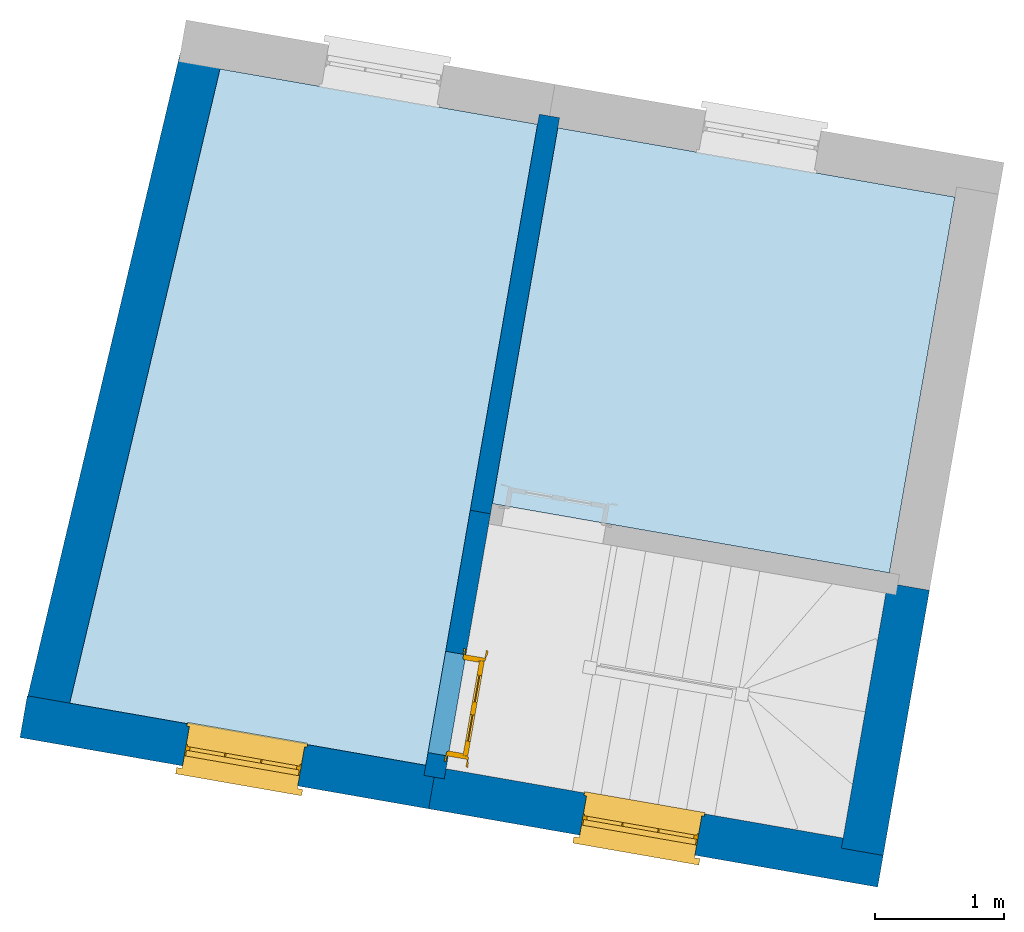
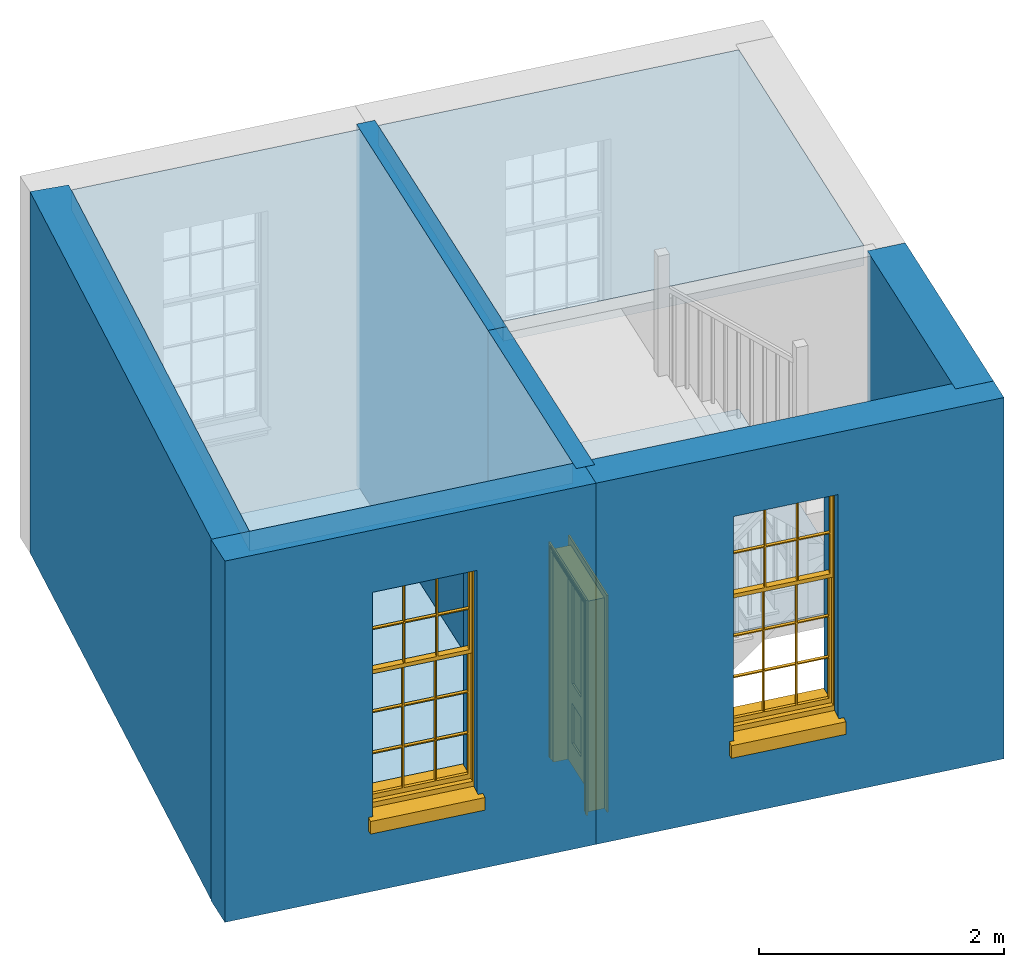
# One storey, part 1 of 2: 6 walls, 4 slabs, 2 windows, 1 door, 3 openings.
"""IFC4 building model written with IfcOpenShell, lengths in metres."""

import ifcopenshell
import ifcopenshell.guid

model = None  # the IFC model being written
_history = None  # IfcOwnerHistory: only IFC2X3 demands one
_inside = {}  # id of a spatial element -> (the spatial element, [elements in it])
_under = {}  # id of a project, library or spatial element -> (it, [spatial elements below it])
_declared = {}  # id of a project -> (the project, [libraries it declares])
_typed = {}  # id of a type object -> (the type object, [elements of that type])
_made_of = {}  # id of a material, layer set ... -> (it, [elements and type objects made of it])


def new_model(schema):
    """Start an empty IFC model of exactly this schema.

    Asked for "IFC4X3", IfcOpenShell would pick the latest addendum, in which some entities
    have other attributes; the version numbers below select the first issue.
    IFC2X3 requires an IfcOwnerHistory on every rooted entity: one is made here for all.
    """
    global model, _history
    if schema == "IFC4X3":
        model = ifcopenshell.file(schema_version=(4, 3, 0, 0))
    else:
        model = ifcopenshell.file(schema=schema)
    _inside.clear()
    _under.clear()
    _declared.clear()
    _typed.clear()
    _made_of.clear()
    _history = None
    if model.schema == "IFC2X3":
        org = make("IfcOrganization", Name="unknown")
        user = make(
            "IfcPersonAndOrganization",
            ThePerson=make("IfcPerson", FamilyName="unknown"),
            TheOrganization=org,
        )
        app = make(
            "IfcApplication",
            ApplicationDeveloper=org,
            Version="unknown",
            ApplicationFullName="unknown",
            ApplicationIdentifier="unknown",
        )
        _history = make(
            "IfcOwnerHistory",
            OwningUser=user,
            OwningApplication=app,
            ChangeAction="ADDED",
            CreationDate=0,
        )
    return model


def make(cls, **values):
    """One entity of the class cls with the attributes given. An attribute that is None is left unset."""
    return model.create_entity(
        cls, **{name: value for name, value in values.items() if value is not None}
    )


def rooted(cls, **values):
    """An entity with a GlobalId (a new one), such as an element, a storey or a relation."""
    return make(cls, GlobalId=ifcopenshell.guid.new(), OwnerHistory=_history, **values)


def si_unit(unit_type, name, prefix=None):
    """IfcSIUnit, for example si_unit("LENGTHUNIT", "METRE", prefix="MILLI")."""
    return make("IfcSIUnit", UnitType=unit_type, Prefix=prefix, Name=name)


def assignment(units):
    """IfcUnitAssignment: the units of a project."""
    return None if units is None else make("IfcUnitAssignment", Units=units)


def point(xyz):
    """IfcCartesianPoint."""
    return None if xyz is None else make("IfcCartesianPoint", Coordinates=xyz)


def direction(xyz):
    """IfcDirection."""
    return None if xyz is None else make("IfcDirection", DirectionRatios=xyz)


def frame(location, z_axis=None, x_axis=None):
    """IfcAxis2Placement3D, a coordinate frame: its origin and axes. An axis left out is left unset."""
    return make(
        "IfcAxis2Placement3D",
        Location=point(location),
        Axis=direction(z_axis),
        RefDirection=direction(x_axis),
    )


def origin():
    """The frame at (0, 0, 0) with its axes left unset."""
    return frame((0.0, 0.0, 0.0))


def origin_with_axes():
    """The frame at (0, 0, 0) with the z axis (0, 0, 1) and the x axis (1, 0, 0) written out."""
    return frame((0.0, 0.0, 0.0), z_axis=(0.0, 0.0, 1.0), x_axis=(1.0, 0.0, 0.0))


def place(relative_to, where):
    """IfcLocalPlacement: puts the frame where relative to a parent placement (None: the world)."""
    return make(
        "IfcLocalPlacement", PlacementRelTo=relative_to, RelativePlacement=where
    )


def context(
    kind, dimensions, precision=None, world=None, true_north=None, identifier=None
):
    """IfcGeometricRepresentationContext, for example the 3D "Model" context."""
    return make(
        "IfcGeometricRepresentationContext",
        ContextIdentifier=identifier,
        ContextType=kind,
        CoordinateSpaceDimension=dimensions,
        Precision=precision,
        WorldCoordinateSystem=world,
        TrueNorth=true_north,
    )


def subcontext(parent, identifier, kind, view, scale=None):
    """IfcGeometricRepresentationSubContext, for example "Body" below "Model"."""
    return make(
        "IfcGeometricRepresentationSubContext",
        ContextIdentifier=identifier,
        ContextType=kind,
        ParentContext=parent,
        TargetScale=scale,
        TargetView=view,
    )


def project(units=None, contexts=None):
    """IfcProject with its units and contexts."""
    return rooted(
        "IfcProject",
        Name="project",
        RepresentationContexts=contexts,
        UnitsInContext=assignment(units),
    )


def spatial(cls, under=None, at=None, **own):
    """A site, building, storey or space (cls), placed at a placement, below another one or the project."""
    s = rooted(cls, ObjectPlacement=at, **own)
    if under is not None:
        _under.setdefault(under.id(), (under, []))[1].append(s)
    return s


def polyline(points):
    """IfcPolyline through the points."""
    return make("IfcPolyline", Points=[point(p) for p in points])


def outline(outer, holes=None, kind="AREA"):
    """IfcArbitraryClosedProfileDef: a profile drawn as a closed curve; with holes, ...WithVoids."""
    if holes is None:
        return make("IfcArbitraryClosedProfileDef", ProfileType=kind, OuterCurve=outer)
    return make(
        "IfcArbitraryProfileDefWithVoids",
        ProfileType=kind,
        OuterCurve=outer,
        InnerCurves=holes,
    )


def extrude(swept, where, along, depth):
    """IfcExtrudedAreaSolid: the profile swept, set in the frame where, extruded along a direction by depth."""
    return make(
        "IfcExtrudedAreaSolid",
        SweptArea=swept,
        Position=where,
        ExtrudedDirection=direction(along),
        Depth=depth,
    )


def faces_of(points, faces, orient=None, outer=None):
    """IfcFace entities. A face is a list of loops; a loop is a list of indices into points, from 0.

    orient and outer hold one flag for each loop. By default every Orientation is true, the
    first loop of a face is its IfcFaceOuterBound and the others are IfcFaceBound.
    """
    made = []
    for i, loops in enumerate(faces):
        bounds = []
        for j, loop in enumerate(loops):
            is_outer = j == 0 if outer is None else outer[i][j]
            bounds.append(
                make(
                    "IfcFaceOuterBound" if is_outer else "IfcFaceBound",
                    Bound=make("IfcPolyLoop", Polygon=[points[k] for k in loop]),
                    Orientation=True if orient is None else orient[i][j],
                )
            )
        made.append(make("IfcFace", Bounds=bounds))
    return made


def faceted_brep(points, faces, orient=None, outer=None, voids=None):
    """IfcFacetedBrep: a solid bounded by flat faces; with voids (closed shells), ...WithVoids."""
    shared = [point(p) for p in points]
    hull = make("IfcClosedShell", CfsFaces=faces_of(shared, faces, orient, outer))
    if voids is None:
        return make("IfcFacetedBrep", Outer=hull)
    return make(
        "IfcFacetedBrepWithVoids",
        Outer=hull,
        Voids=[
            make(cls, CfsFaces=faces_of(shared, fs, o, b)) for cls, fs, o, b in voids
        ],
    )


def shape(context_of_items, identifier, shape_type, items):
    """IfcShapeRepresentation: the items that make up one representation, for example the "Body"."""
    return make(
        "IfcShapeRepresentation",
        ContextOfItems=context_of_items,
        RepresentationIdentifier=identifier,
        RepresentationType=shape_type,
        Items=items,
    )


def source(mapping_origin, context_of_items, identifier, shape_type, items):
    """IfcRepresentationMap: a shape defined once, which mapped items show again and again."""
    return make(
        "IfcRepresentationMap",
        MappingOrigin=mapping_origin,
        MappedRepresentation=shape(context_of_items, identifier, shape_type, items),
    )


def transform(
    local_origin,
    x_axis=None,
    y_axis=None,
    z_axis=None,
    scale=None,
    scale2=None,
    scale3=None,
    uniform=True,
):
    """IfcCartesianTransformationOperator3D, or its non-uniform kind. x_axis, y_axis, z_axis: its Axis1, 2, 3."""
    if uniform:
        return make(
            "IfcCartesianTransformationOperator3D",
            Axis1=direction(x_axis),
            Axis2=direction(y_axis),
            LocalOrigin=point(local_origin),
            Scale=scale,
            Axis3=direction(z_axis),
        )
    return make(
        "IfcCartesianTransformationOperator3DnonUniform",
        Axis1=direction(x_axis),
        Axis2=direction(y_axis),
        LocalOrigin=point(local_origin),
        Scale=scale,
        Axis3=direction(z_axis),
        Scale2=scale2,
        Scale3=scale3,
    )


def mapped(mapping_source, mapping_target):
    """IfcMappedItem: shows the shape of a source again, moved by a transform."""
    return make(
        "IfcMappedItem", MappingSource=mapping_source, MappingTarget=mapping_target
    )


def material(Name=None, Category=None):
    """IfcMaterial."""
    return make("IfcMaterial", Name=Name, Category=Category)


def layer(
    of_material, thickness, ventilated=None, Name=None, Category=None, Priority=None
):
    """IfcMaterialLayer: one layer of a wall or slab, of a material (None: an air gap)."""
    return make(
        "IfcMaterialLayer",
        Material=of_material,
        LayerThickness=thickness,
        IsVentilated=ventilated,
        Name=Name,
        Category=Category,
        Priority=Priority,
    )


def layer_set(layers, Name=None):
    """IfcMaterialLayerSet."""
    return make("IfcMaterialLayerSet", MaterialLayers=layers, LayerSetName=Name)


def layer_usage(for_layer_set, set_direction, sense, offset, extent=None):
    """IfcMaterialLayerSetUsage: how a layer set lies in its element."""
    return make(
        "IfcMaterialLayerSetUsage",
        ForLayerSet=for_layer_set,
        LayerSetDirection=set_direction,
        DirectionSense=sense,
        OffsetFromReferenceLine=offset,
        ReferenceExtent=extent,
    )


def made_of(thing, what):
    """Note that an element or type object is made of a material, layer set ...; save() writes the relation."""
    if what is not None:
        _made_of.setdefault(what.id(), (what, []))[1].append(thing)
    return thing


def type_object(cls, material=None, **own):
    """A type object (cls), such as IfcWallType, which elements share."""
    return made_of(rooted(cls, **own), material)


def type_shapes(of_type, sources):
    """Give a type object the sources (RepresentationMaps) that its elements show as mapped items."""
    of_type.RepresentationMaps = sources


def element(
    cls,
    number,
    at=None,
    inside=None,
    cuts=None,
    type_object=None,
    material=None,
    context=None,
    identifier="Body",
    shape_type=None,
    held_by="IfcProductDefinitionShape",
    body=None,
    shapes=None,
    **own,
):
    """One element of the class cls, such as IfcWall. Its Tag is "e" and its number.

    at: its placement. inside: the storey or other place that contains it. cuts: it is an
    opening in that element (IfcRelVoidsElement). A single representation is given by context,
    identifier, shape_type and body (its items); several are given by shapes. held_by: the class
    of the entity that holds the representations. save() writes the other relations.
    """
    e = rooted(cls, Tag="e%d" % number, ObjectPlacement=at, **own)
    if body is not None:
        shapes = [shape(context, identifier, shape_type, body)]
    if shapes is not None:
        e.Representation = make(held_by, Representations=shapes)
    if inside is not None:
        _inside.setdefault(inside.id(), (inside, []))[1].append(e)
    if cuts is not None:
        rooted(
            "IfcRelVoidsElement", RelatingBuildingElement=cuts, RelatedOpeningElement=e
        )
    if type_object is not None:
        _typed.setdefault(type_object.id(), (type_object, []))[1].append(e)
    return made_of(e, material)


def fill(opening, filler):
    """IfcRelFillsElement: the door or window that sits in an opening."""
    return rooted(
        "IfcRelFillsElement",
        RelatingOpeningElement=opening,
        RelatedBuildingElement=filler,
    )


def aggregate(whole, parts):
    """IfcRelAggregates: a whole, such as a stair, and the parts it consists of."""
    return rooted("IfcRelAggregates", RelatingObject=whole, RelatedObjects=parts)


def save(model, path):
    """Write the relations noted so far, then the file.

    IfcRelAggregates (storeys below a building ...), IfcRelContainedInSpatialStructure (elements
    in a storey), IfcRelDefinesByType, IfcRelAssociatesMaterial and IfcRelDeclares: one each for
    every whole, place, type object, material and project.
    """
    for whole, parts in _under.values():
        aggregate(whole, parts)
    for where, things in _inside.values():
        rooted(
            "IfcRelContainedInSpatialStructure",
            RelatedElements=things,
            RelatingStructure=where,
        )
    for kind, things in _typed.values():
        rooted("IfcRelDefinesByType", RelatedObjects=things, RelatingType=kind)
    for what, things in _made_of.values():
        rooted("IfcRelAssociatesMaterial", RelatedObjects=things, RelatingMaterial=what)
    for by, libraries in _declared.values():
        rooted("IfcRelDeclares", RelatingContext=by, RelatedDefinitions=libraries)
    model.write(path)


model = new_model("IFC4")

# Units and contexts
model_context = context("Model", 3, world=origin_with_axes())
body_context = subcontext(model_context, "Body", "Model", "MODEL_VIEW")
ifc_project = project(units=[si_unit("PLANEANGLEUNIT", "RADIAN"), si_unit("MASSUNIT", "GRAM", prefix="KILO"), si_unit("FORCEUNIT", "NEWTON", prefix="KILO"), si_unit("LENGTHUNIT", "METRE"), si_unit("AREAUNIT", "SQUARE_METRE"), si_unit("VOLUMEUNIT", "CUBIC_METRE")], contexts=[model_context, model_context])

# Sites, building, storey
site_1_placement = place(None, origin_with_axes())
site_1 = spatial("IfcSite", under=ifc_project, at=site_1_placement, Name="Tamar")
site_2_placement = place(site_1_placement, origin_with_axes())
site_2 = spatial("IfcSite", under=site_1, at=site_2_placement, Name="Site plot-26", CompositionType="ELEMENT")
building_placement = place(None, origin_with_axes())
building = spatial("IfcBuilding", under=site_2, at=building_placement, Name="Building plot-26", CompositionType="ELEMENT")
storey_placement = place(None, frame((0.0, 0.0, 29.15), z_axis=(0.0, 0.0, 1.0), x_axis=(1.0, 0.0, 0.0)))
storey = spatial("IfcBuildingStorey", under=building, at=storey_placement, Name="plot-26 1", CompositionType="ELEMENT", Elevation=29.15)

# Slabs
slab_1_placement = place(storey_placement, frame((285.788127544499, 276.357410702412, 3.4)))
element("IfcSlab", 1, at=slab_1_placement, inside=storey, Name="My Slab", ObjectType="Slab", PredefinedType="FLOOR", context=body_context, shape_type="SweptSolid", body=[
    extrude(outline(polyline([(0.0, 0.0), (-1.16954028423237, -4.933998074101), (1.60086254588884, -5.41710384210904), (2.47038160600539, -0.430787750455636), (0.0, 0.0)])), origin_with_axes(), (0.0, 0.0, 1.0), 0.2),
])
slab_2_placement = place(storey_placement, frame((285.788127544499, 276.357410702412, 0.0)))
element("IfcSlab", 2, at=slab_2_placement, inside=storey, Name="My Slab", ObjectType="Slab", PredefinedType="FLOOR", context=body_context, shape_type="SweptSolid", body=[
    extrude(outline(polyline([(0.0, 0.0), (-1.16954028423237, -4.933998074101), (1.60086254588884, -5.41710384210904), (2.47038160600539, -0.430787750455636), (0.0, 0.0)])), origin_with_axes(), (0.0, 0.0, 1.0), 0.02),
])
slab_3_placement = place(storey_placement, frame((287.906316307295, 272.975572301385, 3.4)))
element("IfcSlab", 3, at=slab_3_placement, inside=storey, Name="My Slab", ObjectType="Slab", PredefinedType="FLOOR", context=body_context, shape_type="SweptSolid", body=[
    extrude(outline(polyline([(0.0, 0.0), (3.08955553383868, -0.538759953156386), (3.59936978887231, 2.3848045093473), (0.509814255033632, 2.92356446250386), (0.0, 0.0)])), origin_with_axes(), (0.0, 0.0, 1.0), 0.2),
])
slab_4_placement = place(storey_placement, frame((287.906316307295, 272.975572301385, 0.0)))
element("IfcSlab", 4, at=slab_4_placement, inside=storey, Name="My Slab", ObjectType="Slab", PredefinedType="FLOOR", context=body_context, shape_type="SweptSolid", body=[
    extrude(outline(polyline([(0.0, 0.0), (3.08955553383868, -0.538759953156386), (3.59936978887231, 2.3848045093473), (0.509814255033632, 2.92356446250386), (0.0, 0.0)])), origin_with_axes(), (0.0, 0.0, 1.0), 0.02),
])

# Wall, opening, window
ifc_material_1 = material(Name="Masonry")
ifc_layer_1 = layer(ifc_material_1, 0.33, ventilated=False)
ifc_layer_set_1 = layer_set([ifc_layer_1], Name="exterior_0.08_0.25")
ifc_layer_usage_1 = layer_usage(ifc_layer_set_1, "AXIS2", "POSITIVE", -0.25)
wall_type_1 = type_object("IfcWallType", Name="exterior_0.08_0.25", PredefinedType="SOLIDWALL", material=ifc_layer_set_1)
wall_1_placement = place(storey_placement, frame((284.521148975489, 271.359196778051, 0.0), z_axis=(0.0, 0.0, 1.0), x_axis=(0.985133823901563, -0.17178867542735, 0.0)))
wall_1 = element("IfcWall", 5, at=wall_1_placement, inside=storey, type_object=wall_type_1, material=ifc_layer_usage_1, Name="exterior", context=body_context, shape_type="SweptSolid", body=[
    extrude(outline(polyline([(-0.250000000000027, 0.0799999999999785), (-0.24999999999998, -0.250000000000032), (2.97716782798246, -0.250000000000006), (2.97716782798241, 0.0800000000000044), (-0.250000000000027, 0.0799999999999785)])), origin_with_axes(), (0.0, 0.0, 1.0), 3.6),
])
opening_1_placement = place(wall_1_placement, frame((1.03358391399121, 0.0, 0.75)))
opening_1 = element("IfcOpeningElement", 6, at=opening_1_placement, cuts=wall_1, Name="My Opening", ObjectType="Opening", context=body_context, shape_type="SweptSolid", body=[
    extrude(outline(polyline([(0.0, -0.270000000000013), (0.910000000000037, -0.26999999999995), (0.910000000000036, 1.1), (-1.33226762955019e-15, 1.09999999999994), (0.0, -0.270000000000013)])), origin_with_axes(), (0.0, 0.0, 1.0), 2.23),
])
window_type = type_object("IfcWindowType", Name="sash_big_taller", PartitioningType="DOUBLE_PANEL_HORIZONTAL", PredefinedType="NOTDEFINED")
shared_shape_1 = source(origin(), body_context, "Body", "Brep", [
    faceted_brep([(0.033125, 0.145, 1.385209), (0.01, 0.145, 1.385209), (0.033125, 0.145, 1.786042), (0.876875, 0.145, 1.385209), (0.876875, 0.145, 1.786042), (0.9, 0.145, 1.385209), (0.876875, 0.145, 1.796042), (0.876875, 0.145, 2.196875), (0.9, 0.145, 2.22), (0.033125, 0.145, 2.196875), (0.033125, 0.145, 1.796042), (0.01, 0.145, 2.22), (0.876875, 0.115, 1.786042), (0.876875, 0.115, 1.385209), (0.9, 0.115, 1.347084), (0.033125, 0.115, 2.196875), (0.01, 0.115, 2.22), (0.033125, 0.115, 1.796042), (0.01, 0.115, 1.347084), (0.033125, 0.115, 1.385209), (0.033125, 0.115, 1.786042), (0.876875, 0.115, 2.196875), (0.876875, 0.115, 1.796042), (0.9, 0.115, 2.22), (0.033125, 0.145, 1.347084), (0.01, 0.145, 1.347084), (0.033125, 0.145, 0.94625), (0.876875, 0.145, 1.347084), (0.876875, 0.145, 0.94625), (0.9, 0.145, 1.347084), (0.876875, 0.145, 0.52625), (0.876875, 0.145, 0.125417), (0.9, 0.145, 0.077167), (0.033125, 0.145, 0.125417), (0.033125, 0.145, 0.52625), (0.01, 0.145, 0.077167), (-0.0425, 0.0, 0.01), (-0.0425, -0.05, 0.001667), (0.0, 0.0, 0.01), (0.9525, 0.0, 0.01), (0.91, 0.0, 0.01), (0.9525, -0.05, 0.001667), (-0.02, 0.33, 0.077167), (0.0, 0.33, 0.077167), (-0.02, 0.36, 0.077167), (0.0, 0.19, 0.077167), (0.01, 0.19, 0.077167), (0.91, 0.19, 0.077167), (0.91, 0.33, 0.077167), (0.9, 0.19, 0.077167), (0.93, 0.33, 0.077167), (0.93, 0.36, 0.077167), (0.01, 0.175, 1.385209), (0.9, 0.175, 1.385209), (0.876875, 0.175, 0.125417), (0.876875, 0.175, 0.52625), (0.9, 0.175, 0.077167), (0.876875, 0.175, 0.94625), (0.876875, 0.175, 1.347084), (0.033125, 0.175, 0.125417), (0.01, 0.175, 0.077167), (0.033125, 0.175, 0.52625), (0.033125, 0.175, 1.347084), (0.033125, 0.175, 0.94625), (-0.02, 0.33, 0.052167), (-0.02, 0.36, 0.052167), (0.93, 0.36, 0.052167), (0.93, 0.33, 0.052167), (0.91, 0.33, 0.052167), (0.0, 0.33, 0.052167), (0.91, 0.1, 0.026667), (0.0, 0.1, 0.026667), (-0.0425, -0.05, -0.123333), (0.9525, -0.05, -0.123333), (-0.0425, 0.0, -0.123333), (0.9525, 0.0, -0.123333), (0.01, 0.19, 2.22), (0.9, 0.19, 2.22), (0.0, 0.19, 2.23), (0.91, 0.19, 2.23), (0.01, 0.1, 0.077167), (0.9, 0.1, 0.077167), (0.592292, 0.145, 0.125417), (0.592292, 0.175, 0.125417), (0.317708, 0.175, 0.125417), (0.317708, 0.145, 0.125417), (0.592292, 0.145, 0.53625), (0.317708, 0.145, 0.53625), (0.317708, 0.145, 0.52625), (0.592292, 0.145, 0.52625), (0.592292, 0.175, 0.53625), (0.317708, 0.175, 0.53625), (0.592292, 0.115, 1.796042), (0.592292, 0.145, 1.796042), (0.317708, 0.145, 1.796042), (0.317708, 0.115, 1.796042), (0.317708, 0.115, 1.786042), (0.592292, 0.115, 1.786042), (0.317708, 0.145, 1.786042), (0.592292, 0.145, 1.786042), (0.602292, 0.115, 1.786042), (0.592292, 0.115, 1.385209), (0.602292, 0.115, 1.385209), (0.602292, 0.145, 1.385209), (0.592292, 0.145, 1.385209), (0.602292, 0.145, 1.786042), (0.876875, 0.145, 0.53625), (0.876875, 0.175, 0.53625), (0.602292, 0.175, 0.53625), (0.602292, 0.145, 0.53625), (0.317708, 0.175, 0.52625), (0.307708, 0.175, 0.125417), (0.307708, 0.175, 0.52625), (0.602292, 0.175, 0.52625), (0.602292, 0.175, 0.125417), (0.592292, 0.175, 0.52625), (0.307708, 0.175, 0.53625), (0.033125, 0.175, 0.53625), (0.317708, 0.175, 1.347084), (0.317708, 0.175, 0.94625), (0.307708, 0.175, 0.94625), (0.307708, 0.175, 1.347084), (0.602292, 0.175, 1.347084), (0.602292, 0.175, 0.94625), (0.592292, 0.175, 0.94625), (0.592292, 0.175, 1.347084), (0.307708, 0.145, 0.52625), (0.307708, 0.145, 0.125417), (0.307708, 0.145, 0.53625), (0.033125, 0.145, 0.53625), (0.307708, 0.145, 1.347084), (0.307708, 0.145, 0.94625), (0.592292, 0.145, 1.347084), (0.592292, 0.145, 0.94625), (0.317708, 0.145, 0.94625), (0.317708, 0.145, 1.347084), (0.602292, 0.145, 0.94625), (0.602292, 0.145, 1.347084), (0.602292, 0.145, 0.52625), (0.602292, 0.145, 0.125417), (0.307708, 0.115, 1.796042), (0.307708, 0.115, 1.786042), (0.307708, 0.115, 1.385209), (0.317708, 0.115, 1.385209), (0.317708, 0.115, 2.196875), (0.307708, 0.115, 2.196875), (0.602292, 0.115, 2.196875), (0.592292, 0.115, 2.196875), (0.602292, 0.115, 1.796042), (0.602292, 0.145, 1.796042), (0.307708, 0.145, 1.796042), (0.307708, 0.145, 2.196875), (0.317708, 0.145, 2.196875), (0.592292, 0.145, 2.196875), (0.602292, 0.145, 2.196875), (0.307708, 0.145, 1.786042), (0.317708, 0.145, 1.385209), (0.307708, 0.145, 1.385209), (0.876875, 0.175, 0.93625), (0.033125, 0.175, 0.93625), (0.033125, 0.145, 0.93625), (0.876875, 0.145, 0.93625), (0.91, 0.1, 2.23), (0.9, 0.1, 2.22), (0.01, 0.1, 2.22), (0.0, 0.1, 2.23), (0.91, 0.0, 0.0), (0.0, 0.0, 0.0), (0.91, 0.33, 0.0), (0.0, 0.33, 0.0), (0.317708, 0.145, 0.93625), (0.592292, 0.145, 0.93625), (0.317708, 0.175, 0.93625), (0.307708, 0.175, 0.93625), (0.602292, 0.175, 0.93625), (0.592292, 0.175, 0.93625), (0.307708, 0.145, 0.93625), (0.602292, 0.145, 0.93625)], [[[0, 1, 2]], [[3, 4, 5]], [[6, 7, 8]], [[9, 10, 11]], [[12, 13, 14]], [[15, 16, 17]], [[18, 19, 20]], [[21, 22, 23]], [[24, 25, 26]], [[27, 28, 29]], [[30, 31, 32]], [[33, 34, 35]], [[14, 27, 29]], [[25, 24, 18]], [[36, 37, 38]], [[39, 40, 41]], [[42, 43, 44]], [[45, 46, 43]], [[47, 48, 49]], [[50, 51, 48]], [[1, 0, 52]], [[5, 53, 3]], [[54, 55, 56]], [[57, 58, 53]], [[59, 60, 61]], [[62, 63, 52]], [[48, 43, 46, 49]], [[51, 44, 43, 48]], [[64, 42, 44, 65]], [[65, 44, 51, 66]], [[66, 51, 50, 67]], [[65, 66, 68, 69]], [[60, 56, 49, 46]], [[70, 71, 38, 40]], [[37, 41, 40, 38]], [[37, 72, 73, 41]], [[74, 75, 73, 72]], [[8, 11, 76, 77]], [[76, 78, 79, 77]], [[32, 35, 80, 81]], [[81, 80, 71, 70]], [[82, 83, 84, 85]], [[86, 87, 88, 89]], [[86, 90, 91, 87]], [[92, 93, 94, 95]], [[92, 95, 96, 97]], [[96, 98, 99, 97]], [[100, 97, 101, 102]], [[103, 104, 99, 105]], [[97, 99, 104, 101]], [[102, 103, 105, 100]], [[106, 107, 108, 109]], [[110, 84, 111, 112]], [[113, 114, 83, 115]], [[116, 112, 61, 117]], [[90, 115, 110, 91]], [[118, 119, 120, 121]], [[122, 123, 124, 125]], [[113, 108, 107, 55]], [[126, 112, 111, 127]], [[34, 61, 112, 126]], [[89, 115, 83, 82]], [[88, 110, 115, 89]], [[85, 84, 110, 88]], [[128, 116, 117, 129]], [[130, 121, 120, 131]], [[132, 125, 124, 133]], [[134, 119, 118, 135]], [[136, 123, 122, 137]], [[138, 113, 55, 30]], [[139, 114, 113, 138]], [[138, 30, 106, 109]], [[88, 126, 127, 85]], [[138, 89, 82, 139]], [[137, 132, 133, 136]], [[128, 129, 34, 126]], [[135, 130, 131, 134]], [[140, 17, 20, 141]], [[96, 141, 142, 143]], [[144, 145, 140, 95]], [[146, 147, 92, 148]], [[100, 12, 22, 148]], [[149, 6, 4, 105]], [[94, 150, 151, 152]], [[149, 93, 153, 154]], [[99, 98, 94, 93]], [[155, 2, 10, 150]], [[156, 157, 155, 98]], [[141, 155, 157, 142]], [[20, 2, 155, 141]], [[143, 156, 98, 96]], [[140, 150, 10, 17]], [[145, 151, 150, 140]], [[147, 153, 93, 92]], [[95, 94, 152, 144]], [[22, 6, 149, 148]], [[148, 149, 154, 146]], [[100, 105, 4, 12]], [[109, 86, 89, 138]], [[108, 113, 115, 90]], [[91, 110, 112, 116]], [[87, 128, 126, 88]], [[97, 100, 148, 92]], [[141, 96, 95, 140]], [[98, 155, 150, 94]], [[105, 99, 93, 149]], [[143, 101, 104, 156]], [[135, 118, 125, 132]], [[144, 152, 153, 147]], [[127, 111, 59, 33]], [[15, 9, 151, 145]], [[146, 154, 7, 21]], [[31, 54, 114, 139]], [[36, 74, 72, 37]], [[39, 41, 73, 75]], [[18, 14, 101, 143]], [[23, 16, 144, 147]], [[83, 56, 60, 84]], [[52, 53, 125, 118]], [[53, 52, 156, 104]], [[11, 8, 153, 152]], [[14, 18, 135, 132]], [[2, 1, 11, 10]], [[8, 5, 4, 6]], [[57, 53, 56, 158]], [[60, 52, 63, 159]], [[26, 25, 35, 160]], [[32, 29, 28, 161]], [[14, 23, 22, 12]], [[18, 20, 17, 16]], [[19, 0, 2, 20]], [[17, 10, 9, 15]], [[12, 4, 3, 13]], [[21, 7, 6, 22]], [[27, 58, 57, 28]], [[30, 55, 54, 31]], [[33, 59, 61, 34]], [[26, 63, 62, 24]], [[5, 8, 77, 53]], [[76, 11, 1, 52]], [[46, 45, 78, 76]], [[49, 77, 79, 47]], [[70, 162, 163, 81]], [[71, 80, 164, 165]], [[19, 142, 157, 0]], [[102, 13, 3, 103]], [[121, 130, 24, 62]], [[29, 32, 81, 14]], [[80, 35, 25, 18]], [[60, 46, 76, 52]], [[77, 49, 56, 53]], [[23, 14, 81, 163]], [[16, 164, 80, 18]], [[35, 85, 127]], [[127, 33, 35]], [[139, 82, 32]], [[32, 31, 139]], [[32, 82, 85, 35]], [[102, 101, 14]], [[14, 13, 102]], [[18, 143, 142]], [[142, 19, 18]], [[146, 21, 23]], [[23, 147, 146]], [[16, 15, 145]], [[145, 144, 16]], [[11, 152, 151]], [[151, 9, 11]], [[154, 153, 8]], [[8, 7, 154]], [[23, 163, 164, 16]], [[162, 165, 164, 163]], [[52, 118, 121]], [[121, 62, 52]], [[125, 53, 122]], [[58, 122, 53]], [[27, 137, 122, 58]], [[56, 83, 114]], [[114, 54, 56]], [[111, 84, 60]], [[60, 59, 111]], [[137, 27, 14]], [[14, 132, 137]], [[130, 135, 18]], [[18, 24, 130]], [[157, 156, 52]], [[52, 0, 157]], [[103, 3, 53]], [[53, 104, 103]], [[79, 78, 165, 162]], [[78, 45, 71, 165]], [[162, 70, 47, 79]], [[166, 75, 74, 167]], [[68, 66, 67]], [[48, 68, 67, 50]], [[69, 64, 65]], [[42, 64, 69, 43]], [[69, 68, 168, 169]], [[70, 68, 48, 47]], [[166, 168, 68, 70]], [[43, 69, 71, 45]], [[69, 169, 167, 71]], [[168, 166, 167, 169]], [[38, 167, 74, 36]], [[71, 167, 38]], [[39, 75, 166, 40]], [[40, 166, 70]], [[133, 134, 170, 171]], [[133, 124, 119, 134]], [[28, 57, 123, 136]], [[172, 91, 116, 173]], [[174, 108, 90, 175]], [[120, 173, 159, 63]], [[124, 175, 172, 119]], [[174, 123, 57, 158]], [[176, 173, 116, 128]], [[160, 159, 173, 176]], [[171, 175, 90, 86]], [[170, 172, 175, 171]], [[87, 91, 172, 170]], [[131, 120, 63, 26]], [[177, 174, 158, 161]], [[109, 108, 174, 177]], [[177, 161, 28, 136]], [[170, 176, 128, 87]], [[177, 171, 86, 109]], [[131, 26, 160, 176]], [[136, 133, 171, 177]], [[123, 174, 175, 124]], [[119, 172, 173, 120]], [[134, 131, 176, 170]], [[129, 117, 159, 160]], [[161, 158, 107, 106]], [[35, 34, 129]], [[35, 129, 160]], [[32, 106, 30]], [[32, 161, 106]], [[56, 55, 107]], [[56, 107, 158]], [[60, 117, 61]], [[60, 159, 117]]]),
])
type_shapes(window_type, [shared_shape_1])
window_1_placement = place(storey_placement, frame((285.492984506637, 270.91565263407, 0.75), z_axis=(0.0, 0.0, 1.0), x_axis=(0.89647177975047, -0.156327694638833, 0.0)))
window_1 = element("IfcWindow", 7, at=window_1_placement, inside=storey, type_object=window_type, Name="bedroom outside window", OverallHeight=2.23, OverallWidth=0.91, context=body_context, shape_type="MappedRepresentation", body=[
    mapped(shared_shape_1, transform((0.0, 0.0, 0.0), scale=1.0)),
])
fill(opening_1, window_1)

wall_2_placement = place(storey_placement, frame((287.454057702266, 270.847753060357, 0.0), z_axis=(0.0, 0.0, 1.0), x_axis=(0.985133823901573, -0.171788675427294, 0.0)))
wall_2 = element("IfcWall", 8, at=wall_2_placement, inside=storey, type_object=wall_type_1, material=ifc_layer_usage_1, Name="exterior", context=body_context, shape_type="SweptSolid", body=[
    extrude(outline(polyline([(-1.58402044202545e-14, 0.0800000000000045), (1.2166529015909e-14, -0.250000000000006), (3.54617851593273, -0.249999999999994), (3.5461785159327, 0.0800000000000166), (-1.58402044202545e-14, 0.0800000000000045)])), origin_with_axes(), (0.0, 0.0, 1.0), 3.6),
])
opening_2_placement = place(wall_2_placement, frame((1.19308925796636, 0.0, 0.75)))
opening_2 = element("IfcOpeningElement", 9, at=opening_2_placement, cuts=wall_2, Name="My Opening", ObjectType="Opening", context=body_context, shape_type="SweptSolid", body=[
    extrude(outline(polyline([(0.0, -0.269999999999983), (0.909999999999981, -0.269999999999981), (0.910000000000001, 1.09999999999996), (1.95399252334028e-14, 1.09999999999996), (0.0, -0.269999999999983)])), origin_with_axes(), (0.0, 0.0, 1.0), 2.23),
])
window_2_placement = place(storey_placement, frame((288.583027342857, 270.376807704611, 0.75), z_axis=(0.0, 0.0, 1.0), x_axis=(0.896471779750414, -0.156327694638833, 0.0)))
window_2 = element("IfcWindow", 10, at=window_2_placement, inside=storey, type_object=window_type, Name="circulation outside window", OverallHeight=2.23, OverallWidth=0.91, context=body_context, shape_type="MappedRepresentation", body=[
    mapped(shared_shape_1, transform((0.0, 0.0, 0.0), scale=1.0)),
])
fill(opening_2, window_2)

# Walls
ifc_material_2 = material(Name="Masonry")
ifc_layer_2 = layer(ifc_material_2, 0.33, ventilated=False)
ifc_layer_set_2 = layer_set([ifc_layer_2], Name="party_0.08_0.25")
ifc_layer_usage_2 = layer_usage(ifc_layer_set_2, "AXIS2", "POSITIVE", -0.25)
wall_type_2 = type_object("IfcWallType", Name="party_0.08_0.25", PredefinedType="SOLIDWALL", material=ifc_layer_set_2)
wall_3_placement = place(storey_placement, frame((285.727659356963, 276.44916244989, 0.0), z_axis=(0.0, 0.0, 1.0), x_axis=(-0.230645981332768, -0.973037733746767, 0.0)))
element("IfcWall", 11, at=wall_3_placement, inside=storey, type_object=wall_type_2, material=ifc_layer_usage_2, Name="party", context=body_context, shape_type="SweptSolid", body=[
    extrude(outline(polyline([(-1.56466359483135e-14, 0.0800000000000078), (-8.08931999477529e-15, -0.25000000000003), (5.23100543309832, -0.25000000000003), (5.23100543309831, 0.0800000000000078), (-1.56466359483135e-14, 0.0800000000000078)])), origin_with_axes(), (0.0, 0.0, 1.0), 3.6),
])
wall_4_placement = place(storey_placement, frame((290.701234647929, 270.281506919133, 0.0), z_axis=(0.0, 0.0, 1.0), x_axis=(0.171788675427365, 0.985133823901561, 0.0)))
element("IfcWall", 12, at=wall_4_placement, inside=storey, type_object=wall_type_2, material=ifc_layer_usage_2, Name="party", context=body_context, shape_type="SweptSolid", body=[
    extrude(outline(polyline([(-2.15600734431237e-14, 0.0800000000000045), (2.99358185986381e-14, -0.250000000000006), (2.09387961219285, -0.250000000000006), (2.0938796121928, 0.0800000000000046), (-2.15600734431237e-14, 0.0800000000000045)])), origin_with_axes(), (0.0, 0.0, 1.0), 3.6),
])
ifc_material_3 = material(Name="Masonry")
ifc_layer_3 = layer(ifc_material_3, 0.16, ventilated=False)
ifc_layer_set_3 = layer_set([ifc_layer_3], Name="interior_0.08_0.08")
ifc_layer_usage_3 = layer_usage(ifc_layer_set_3, "AXIS2", "POSITIVE", -0.08)
wall_type_3 = type_object("IfcWallType", Name="interior_0.08_0.08", PredefinedType="SOLIDWALL", material=ifc_layer_set_3)
wall_5_placement = place(storey_placement, frame((287.813762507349, 272.910504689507, 0.0), z_axis=(0.0, 0.0, 1.0), x_axis=(0.171788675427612, 0.985133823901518, 0.0)))
element("IfcWall", 13, at=wall_5_placement, inside=storey, type_object=wall_type_3, material=ifc_layer_usage_3, Name="interior", context=body_context, shape_type="SweptSolid", body=[
    extrude(outline(polyline([(1.43578618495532e-14, 0.0800000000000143), (-1.4365828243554e-14, -0.0800000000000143), (3.12768255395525, -0.0800000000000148), (3.12768255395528, 0.0800000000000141), (1.43578618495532e-14, 0.0800000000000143)])), origin_with_axes(), (0.0, 0.0, 1.0), 3.6),
])

# Wall, opening, door
wall_6_placement = place(storey_placement, frame((287.813762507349, 272.910504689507, 0.0), z_axis=(0.0, 0.0, 1.0), x_axis=(-0.171788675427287, -0.985133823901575, 0.0)))
wall_6 = element("IfcWall", 14, at=wall_6_placement, inside=storey, type_object=wall_type_3, material=ifc_layer_usage_3, Name="interior", context=body_context, shape_type="SweptSolid", body=[
    extrude(outline(polyline([(-1.52203103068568e-14, 0.0800000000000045), (1.52105131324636e-14, -0.0800000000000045), (2.09387961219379, -0.0800000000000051), (2.09387961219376, 0.080000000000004), (-1.52203103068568e-14, 0.0800000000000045)])), origin_with_axes(), (0.0, 0.0, 1.0), 3.6),
])
opening_3_placement = place(wall_6_placement, frame((1.11387961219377, 0.0, 0.0199999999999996)))
opening_3 = element("IfcOpeningElement", 15, at=opening_3_placement, cuts=wall_6, Name="My Opening", ObjectType="Opening", context=body_context, shape_type="SweptSolid", body=[
    extrude(outline(polyline([(0.0, -0.0999999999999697), (0.800000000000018, -0.0999999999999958), (0.800000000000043, 1.09999999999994), (2.44249065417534e-14, 1.09999999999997), (0.0, -0.0999999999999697)])), origin_with_axes(), (0.0, 0.0, 1.0), 2.1),
])
door_type = type_object("IfcDoorType", Name="door_inside", OperationType="SINGLE_SWING_LEFT", PredefinedType="NOTDEFINED")
shared_shape_2 = source(origin(), body_context, "Body", "Brep", [
    faceted_brep([(0.773, 0.33, 1.895), (0.66, 0.33, 1.895), (0.66, 0.33, 2.073), (0.773, 0.33, 2.073), (0.773, 0.33, 0.82), (0.66, 0.33, 0.82), (0.45, 0.33, 1.895), (0.45, 0.33, 2.073), (0.773, 0.33, 0.62), (0.66, 0.33, 0.62), (0.66, 0.315, 0.82), (0.66, 0.315, 1.895), (0.45, 0.315, 1.895), (0.35, 0.33, 1.895), (0.35, 0.33, 2.073), (0.773, 0.33, 0.225), (0.66, 0.33, 0.225), (0.45, 0.33, 0.62), (0.45, 0.33, 0.82), (0.45, 0.315, 0.82), (0.35, 0.33, 0.82), (0.14, 0.33, 2.073), (0.14, 0.33, 1.895), (0.773, 0.33, 0.0), (0.66, 0.33, 0.0), (0.66, 0.315, 0.225), (0.66, 0.315, 0.62), (0.45, 0.315, 0.62), (0.35, 0.33, 0.62), (0.35, 0.315, 0.82), (0.35, 0.315, 1.895), (0.14, 0.315, 1.895), (0.027, 0.33, 2.073), (0.027, 0.33, 1.895), (0.773, 0.292, 0.0), (0.66, 0.292, 0.0), (0.45, 0.33, 0.0), (0.45, 0.33, 0.225), (0.45, 0.315, 0.225), (0.35, 0.33, 0.225), (0.14, 0.33, 0.82), (0.14, 0.33, 0.62), (0.14, 0.315, 0.82), (0.027, 0.33, 0.82), (0.773, 0.292, 0.225), (0.66, 0.292, 0.225), (0.45, 0.292, 0.0), (0.35, 0.33, 0.0), (0.35, 0.315, 0.225), (0.35, 0.315, 0.62), (0.14, 0.315, 0.62), (0.027, 0.33, 0.62), (0.773, 0.292, 0.62), (0.66, 0.292, 0.62), (0.45, 0.292, 0.225), (0.35, 0.292, 0.0), (0.14, 0.33, 0.225), (0.14, 0.33, 0.0), (0.14, 0.315, 0.225), (0.027, 0.33, 0.225), (0.773, 0.292, 0.82), (0.66, 0.292, 0.82), (0.66, 0.307, 0.62), (0.66, 0.307, 0.225), (0.45, 0.307, 0.225), (0.35, 0.292, 0.225), (0.14, 0.292, 0.0), (0.027, 0.33, 0.0), (0.773, 0.292, 1.895), (0.66, 0.292, 1.895), (0.45, 0.292, 0.62), (0.45, 0.292, 0.82), (0.45, 0.307, 0.62), (0.35, 0.292, 0.62), (0.14, 0.292, 0.225), (0.027, 0.292, 0.0), (0.773, 0.292, 2.073), (0.66, 0.292, 2.073), (0.66, 0.307, 1.895), (0.66, 0.307, 0.82), (0.45, 0.307, 0.82), (0.35, 0.292, 0.82), (0.35, 0.307, 0.62), (0.35, 0.307, 0.225), (0.14, 0.307, 0.225), (0.027, 0.292, 0.225), (0.45, 0.292, 1.895), (0.45, 0.292, 2.073), (0.45, 0.307, 1.895), (0.35, 0.292, 1.895), (0.14, 0.292, 0.82), (0.14, 0.292, 0.62), (0.14, 0.307, 0.62), (0.027, 0.292, 0.62), (0.35, 0.292, 2.073), (0.35, 0.307, 1.895), (0.35, 0.307, 0.82), (0.14, 0.307, 0.82), (0.027, 0.292, 0.82), (0.14, 0.292, 2.073), (0.14, 0.292, 1.895), (0.14, 0.307, 1.895), (0.027, 0.292, 1.895), (0.027, 0.292, 2.073), (0.02, 0.335, 0.0), (0.005, 0.34, 0.0), (0.005, 0.34, 2.095), (0.02, 0.335, 2.08), (0.02, 0.33, 0.0), (0.0, 0.335, 0.0), (0.0, 0.335, 2.1), (0.795, 0.34, 2.095), (0.78, 0.335, 2.08), (0.02, 0.33, 2.08), (0.0, 0.33, 0.0), (-0.032, 0.345, 0.0), (-0.032, 0.345, 2.132), (0.8, 0.335, 2.1), (0.795, 0.34, 0.0), (0.78, 0.335, 0.0), (0.78, 0.33, 2.08), (0.04, 0.29, 0.0), (0.025, 0.29, 0.0), (0.025, 0.29, 2.075), (0.04, 0.29, 2.06), (-0.04, 0.34, 0.0), (-0.04, 0.34, 2.14), (0.832, 0.345, 2.132), (0.8, 0.335, 0.0), (0.78, 0.33, 0.0), (0.8, 0.33, 0.0), (0.86, 0.33, 0.0), (0.86, 0.33, 2.16), (0.8, 0.33, 2.1), (-0.06, 0.33, 2.16), (0.0, 0.33, 2.1), (-0.06, 0.33, 0.0), (-0.04, 0.345, 0.0), (-0.04, 0.345, 2.14), (0.84, 0.34, 2.14), (0.832, 0.345, 0.0), (0.84, 0.34, 0.0), (0.86, 0.345, 0.0), (0.86, 0.345, 2.16), (-0.06, 0.345, 2.16), (-0.06, 0.345, 0.0), (0.84, 0.345, 0.0), (0.84, 0.345, 2.14), (-0.025, 0.155, 0.0), (-0.025, 0.16, 0.0), (-0.025, 0.16, 2.125), (-0.025, 0.155, 2.125), (-0.017, 0.155, 0.0), (-0.017, 0.155, 2.117), (0.825, 0.16, 2.125), (0.825, 0.155, 2.125), (0.825, 0.155, 0.0), (0.845, 0.155, 0.0), (-0.045, 0.155, 2.145), (-0.045, 0.155, 0.0), (0.845, 0.155, 2.145), (0.015, 0.165, 0.0), (0.015, 0.165, 2.085), (0.817, 0.155, 2.117), (0.825, 0.16, 0.0), (0.845, 0.17, 0.0), (0.845, 0.17, 2.145), (-0.045, 0.17, 2.145), (-0.045, 0.17, 0.0), (0.02, 0.16, 0.0), (0.02, 0.16, 2.08), (0.785, 0.165, 2.085), (0.817, 0.155, 0.0), (0.8, 0.17, 0.0), (0.8, 0.17, 2.1), (0.0, 0.17, 2.1), (0.0, 0.17, 0.0), (0.035, 0.165, 0.0), (0.035, 0.165, 2.065), (0.78, 0.16, 2.08), (0.785, 0.165, 0.0), (0.775, 0.29, 2.075), (0.76, 0.29, 2.06), (0.035, 0.17, 2.065), (0.035, 0.17, 0.0), (0.765, 0.165, 2.065), (0.78, 0.16, 0.0), (0.765, 0.17, 0.0), (0.765, 0.17, 2.065), (0.765, 0.165, 0.0), (0.04, 0.17, 2.06), (0.04, 0.17, 0.0), (0.76, 0.17, 2.06), (0.76, 0.17, 0.0), (0.76, 0.29, 0.0), (0.775, 0.29, 0.0), (0.025, 0.33, 0.0), (0.025, 0.33, 2.075), (0.775, 0.33, 0.0), (0.775, 0.33, 2.075)], [[[0, 1, 2, 3]], [[1, 0, 4, 5]], [[1, 6, 7, 2]], [[8, 9, 5, 4]], [[1, 5, 10, 11]], [[6, 1, 11, 12]], [[6, 13, 14, 7]], [[15, 16, 9, 8]], [[9, 17, 18, 5]], [[5, 18, 19, 10]], [[10, 19, 12, 11]], [[18, 6, 12, 19]], [[18, 20, 13, 6]], [[21, 14, 13, 22]], [[23, 24, 16, 15]], [[9, 16, 25, 26]], [[17, 9, 26, 27]], [[17, 28, 20, 18]], [[13, 20, 29, 30]], [[22, 13, 30, 31]], [[32, 21, 22, 33]], [[34, 35, 24, 23]], [[24, 36, 37, 16]], [[16, 37, 38, 25]], [[25, 38, 27, 26]], [[37, 17, 27, 38]], [[37, 39, 28, 17]], [[40, 20, 28, 41]], [[20, 40, 42, 29]], [[31, 30, 29, 42]], [[40, 22, 31, 42]], [[33, 22, 40, 43]], [[35, 34, 44, 45]], [[35, 46, 36, 24]], [[36, 47, 39, 37]], [[28, 39, 48, 49]], [[41, 28, 49, 50]], [[43, 40, 41, 51]], [[45, 44, 52, 53]], [[46, 35, 45, 54]], [[46, 55, 47, 36]], [[56, 39, 47, 57]], [[39, 56, 58, 48]], [[50, 49, 48, 58]], [[56, 41, 50, 58]], [[51, 41, 56, 59]], [[53, 52, 60, 61]], [[45, 53, 62, 63]], [[54, 45, 63, 64]], [[55, 46, 54, 65]], [[55, 66, 57, 47]], [[59, 56, 57, 67]], [[61, 60, 68, 69]], [[70, 53, 61, 71]], [[53, 70, 72, 62]], [[72, 64, 63, 62]], [[70, 54, 64, 72]], [[65, 54, 70, 73]], [[65, 74, 66, 55]], [[67, 57, 66, 75]], [[69, 68, 76, 77]], [[61, 69, 78, 79]], [[71, 61, 79, 80]], [[73, 70, 71, 81]], [[65, 73, 82, 83]], [[74, 65, 83, 84]], [[74, 85, 75, 66]], [[86, 69, 77, 87]], [[69, 86, 88, 78]], [[88, 80, 79, 78]], [[86, 71, 80, 88]], [[81, 71, 86, 89]], [[73, 81, 90, 91]], [[73, 91, 92, 82]], [[83, 82, 92, 84]], [[91, 74, 84, 92]], [[91, 93, 85, 74]], [[89, 86, 87, 94]], [[81, 89, 95, 96]], [[90, 81, 96, 97]], [[90, 98, 93, 91]], [[94, 99, 100, 89]], [[89, 100, 101, 95]], [[101, 97, 96, 95]], [[100, 90, 97, 101]], [[100, 102, 98, 90]], [[99, 103, 102, 100]], [[32, 103, 99, 21]], [[102, 103, 32, 33]], [[98, 102, 33, 43]], [[21, 99, 94, 14]], [[94, 87, 7, 14]], [[7, 87, 77, 2]], [[76, 3, 2, 77]], [[43, 51, 93, 98]], [[51, 59, 85, 93]], [[67, 75, 85, 59]], [[34, 23, 15, 44]], [[44, 15, 8, 52]], [[52, 8, 4, 60]], [[0, 68, 60, 4]], [[0, 3, 76, 68]], [[104, 105, 106, 107]], [[104, 108, 109, 105]], [[105, 109, 110, 106]], [[107, 106, 111, 112]], [[107, 113, 108, 104]], [[114, 109, 108]], [[109, 115, 116, 110]], [[106, 110, 117, 111]], [[112, 111, 118, 119]], [[113, 107, 112, 120]], [[121, 122, 123, 124]], [[115, 109, 114, 125]], [[115, 125, 126, 116]], [[110, 116, 127, 117]], [[111, 117, 128, 118]], [[118, 128, 129, 119]], [[120, 112, 119, 129]], [[130, 129, 128]], [[130, 131, 132, 133]], [[133, 132, 134, 135]], [[135, 134, 136, 114]], [[136, 125, 114]], [[125, 137, 138, 126]], [[116, 126, 139, 127]], [[117, 127, 140, 128]], [[141, 130, 128, 140]], [[131, 130, 141]], [[131, 142, 143, 132]], [[132, 143, 144, 134]], [[134, 144, 145, 136]], [[137, 125, 136, 145]], [[143, 142, 146]], [[143, 146, 147]], [[137, 145, 144]], [[143, 147, 138]], [[138, 137, 144]], [[143, 138, 144]], [[126, 138, 147, 139]], [[127, 139, 141, 140]], [[142, 131, 141, 146]], [[139, 147, 146, 141]], [[148, 149, 150, 151]], [[149, 152, 153, 150]], [[151, 150, 154, 155]], [[155, 156, 157]], [[158, 159, 148]], [[158, 148, 151]], [[155, 157, 160]], [[158, 151, 155]], [[155, 160, 158]], [[152, 161, 162, 153]], [[150, 153, 163, 154]], [[155, 154, 164, 156]], [[156, 164, 165, 157]], [[157, 165, 166, 160]], [[160, 166, 167, 158]], [[158, 167, 168, 159]], [[161, 169, 170, 162]], [[153, 162, 171, 163]], [[154, 163, 172, 164]], [[165, 164, 173]], [[165, 173, 174, 166]], [[166, 174, 175, 167]], [[167, 175, 176, 168]], [[169, 177, 178, 170]], [[162, 170, 179, 171]], [[163, 171, 180, 172]], [[172, 180, 173, 164]], [[124, 123, 181, 182]], [[183, 178, 177, 184]], [[170, 178, 185, 179]], [[171, 179, 186, 180]], [[187, 173, 180]], [[185, 188, 187, 189]], [[188, 185, 178, 183]], [[179, 185, 189, 186]], [[189, 187, 180, 186]], [[190, 183, 184, 191]], [[192, 188, 183, 190]], [[191, 184, 122, 121]], [[124, 190, 191, 121]], [[193, 187, 188, 192]], [[182, 192, 190, 124]], [[184, 176, 122]], [[194, 195, 187, 193]], [[192, 182, 194, 193]], [[161, 176, 184]], [[114, 108, 122, 176]], [[173, 187, 195]], [[152, 149, 176, 161]], [[169, 161, 184, 177]], [[196, 122, 108]], [[176, 175, 135, 114]], [[173, 195, 129, 130]], [[176, 149, 168]], [[123, 122, 196, 197]], [[196, 108, 113, 197]], [[175, 174, 133, 135]], [[198, 129, 195]], [[133, 174, 173, 130]], [[159, 168, 149, 148]], [[181, 123, 197, 199]], [[197, 113, 120, 199]], [[199, 120, 129, 198]], [[195, 181, 199, 198]], [[195, 194, 182, 181]]]),
])
type_shapes(door_type, [shared_shape_2])
door_placement = place(storey_placement, frame((287.523897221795, 271.830363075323, 0.0199999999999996), z_axis=(0.0, 0.0, 1.0), x_axis=(-0.137430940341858, -0.788107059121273, 0.0)))
door = element("IfcDoor", 16, at=door_placement, inside=storey, type_object=door_type, Name="bedroom inside door", OverallHeight=2.1, OverallWidth=0.8, context=body_context, shape_type="MappedRepresentation", body=[
    mapped(shared_shape_2, transform((0.0, 0.0, 0.0), scale=1.0)),
])
fill(opening_3, door)

save(model, "model.ifc")
